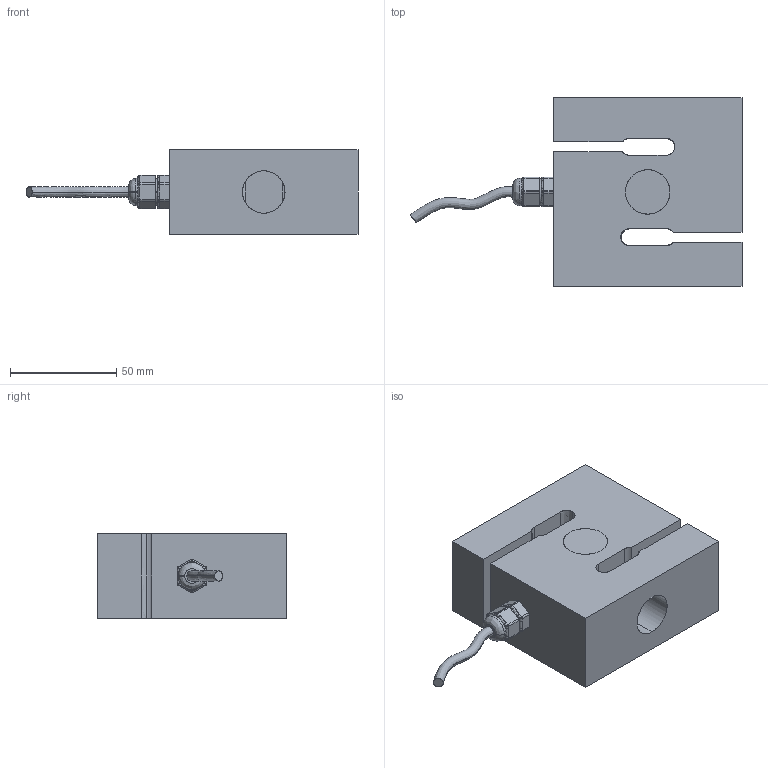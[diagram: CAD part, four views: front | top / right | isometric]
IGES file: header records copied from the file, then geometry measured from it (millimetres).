
Start section: SolidWorks IGES file using analytic representation for surfaces
Global section: file name: C:\Users\nasc01\Desktop\Assemblies for Conversion\Load_Sensor_HISTLB_6.6KLB\Load_Sensor_HISTLB_220LB-2.2KLB_3D\HI STLB-6.6KLB.IGS; native system: SolidWorks 2013; preprocessor: SolidWorks 2013; author: nasc01; date: 141014.100659; units: millimetre
Bounding box: 156.23 x 88.7 x 39.8 mm (x, y, z)
Surface area: 45950.4 mm2 (no closed solid volume)
Topology: 0 solids, 0 shells, 133 faces, 1410 edges, 1410 vertices
Faces by surface type: revolution 69, bspline 64
